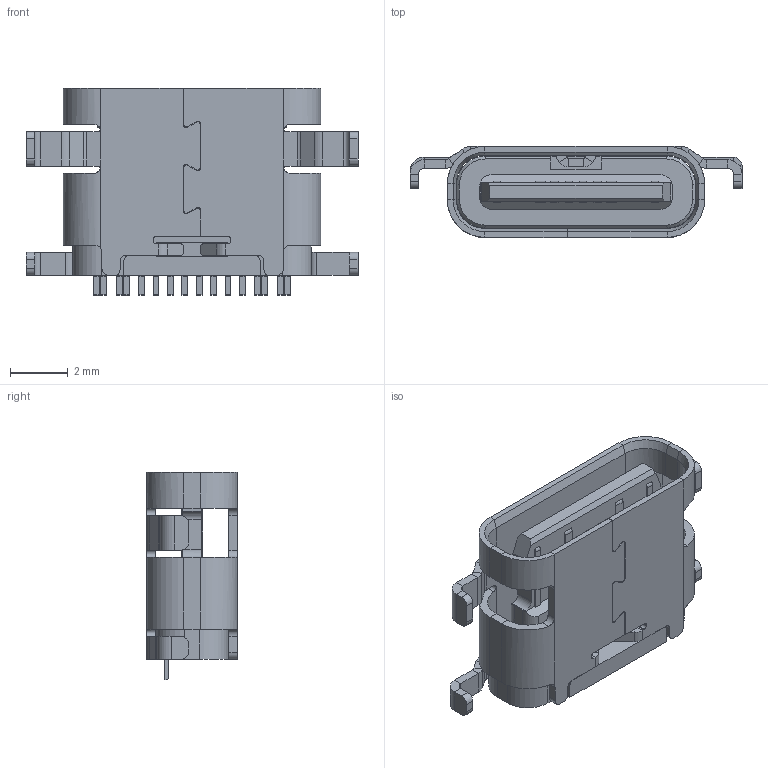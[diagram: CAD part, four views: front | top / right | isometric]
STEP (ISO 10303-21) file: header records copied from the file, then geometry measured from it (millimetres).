
FILE_DESCRIPTION (( 'STEP AP203' ), '1' );
FILE_NAME ('GT-USB-7014H.stp', '2023-04-19T08:59:18', ( '' ), ( '' ), 'SwSTEP 2.0', 'SolidWorks 2023', '' );
FILE_SCHEMA (( 'CONFIG_CONTROL_DESIGN' ));
Length unit declared in the file: millimetre
Products named in the file (4): GT-USB-7014H_1.stp; MO-2_200813^GT-USB-7014H(2)_GT-USB-7014H.stp; GT-USB-7014H; GT-USB-7014H(2)^GT-USB-7014H.stp
Assembly tree (3 placements, depth 4):
  GT-USB-7014H
    GT-USB-7014H_1.stp
      GT-USB-7014H(2)^GT-USB-7014H.stp
        MO-2_200813^GT-USB-7014H(2)_GT-USB-7014H.stp
Bounding box: 11.54 x 3.16 x 7.2 mm (x, y, z)
Volume: 98.3 mm3; surface area: 429.9 mm2
Topology: 1 solids, 1 shells, 891 faces, 2386 edges, 1522 vertices
Faces by surface type: plane 618, cylinder 188, bspline 76, cone 9
Entity records: 31691 total; most frequent: CARTESIAN_POINT 9379, ORIENTED_EDGE 4772, DIRECTION 4195, EDGE_CURVE 2386, LINE 1823, VECTOR 1823, VERTEX_POINT 1522, AXIS2_PLACEMENT_3D 1186
